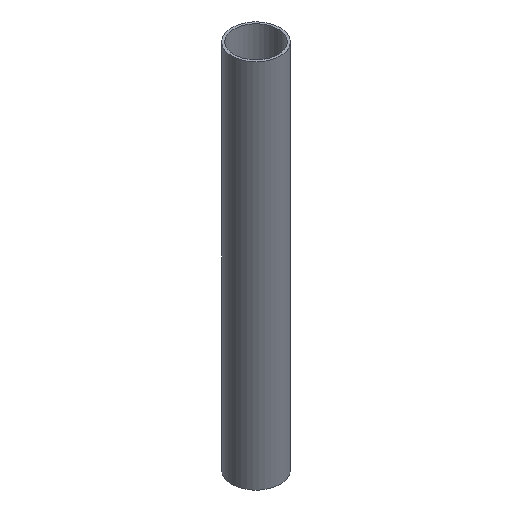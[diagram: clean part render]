
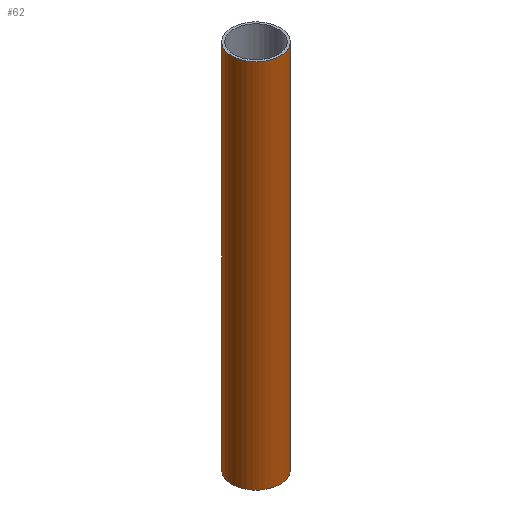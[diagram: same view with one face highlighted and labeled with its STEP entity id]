
A CAD part, isometric view. The second image highlights one B-rep face of the part: STEP entity #62.
In plain terms, the highlighted cylindrical face has radius 52.5 mm (diameter 105 mm), a full revolution.
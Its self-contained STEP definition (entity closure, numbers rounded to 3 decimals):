
#20=FACE_OUTER_BOUND('',#24,.T.);
#24=EDGE_LOOP('',(#51,#52,#53,#54));
#30=LINE('',#127,#32);
#32=VECTOR('',#109,52.5);
#35=CIRCLE('',#92,52.5);
#36=CIRCLE('',#93,52.5);
#39=VERTEX_POINT('',#124);
#40=VERTEX_POINT('',#126);
#44=EDGE_CURVE('',#39,#39,#35,.T.);
#45=EDGE_CURVE('',#39,#40,#30,.T.);
#46=EDGE_CURVE('',#40,#40,#36,.T.);
#51=ORIENTED_EDGE('',*,*,#44,.F.);
#52=ORIENTED_EDGE('',*,*,#45,.T.);
#53=ORIENTED_EDGE('',*,*,#46,.F.);
#54=ORIENTED_EDGE('',*,*,#45,.F.);
#60=CYLINDRICAL_SURFACE('',#91,52.5);
#62=ADVANCED_FACE('',(#20),#60,.T.);
#91=AXIS2_PLACEMENT_3D('',#123,#105,#106);
#92=AXIS2_PLACEMENT_3D('',#125,#107,#108);
#93=AXIS2_PLACEMENT_3D('',#128,#110,#111);
#105=DIRECTION('center_axis',(0.,0.,-1.));
#106=DIRECTION('ref_axis',(1.,0.,0.));
#107=DIRECTION('center_axis',(0.,0.,-1.));
#108=DIRECTION('ref_axis',(1.,0.,0.));
#109=DIRECTION('',(0.,0.,1.));
#110=DIRECTION('center_axis',(0.,0.,1.));
#111=DIRECTION('ref_axis',(1.,0.,0.));
#123=CARTESIAN_POINT('Origin',(0.,0.,0.));
#124=CARTESIAN_POINT('',(-52.5,0.,-800.));
#125=CARTESIAN_POINT('Origin',(0.,0.,-800.));
#126=CARTESIAN_POINT('',(-52.5,0.,0.));
#127=CARTESIAN_POINT('',(-52.5,0.,0.));
#128=CARTESIAN_POINT('Origin',(0.,0.,0.));
